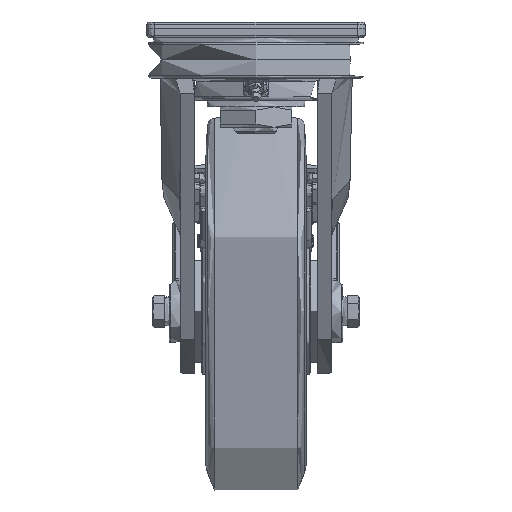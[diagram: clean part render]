
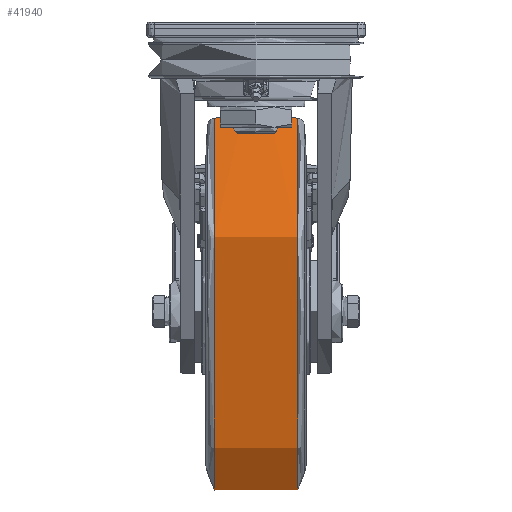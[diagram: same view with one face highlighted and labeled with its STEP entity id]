
A CAD part, left-side view. The second image highlights one B-rep face of the part: STEP entity #41940.
In plain terms, the highlighted free-form (B-spline) face has degree [2, 2] with [3, 9] control points.
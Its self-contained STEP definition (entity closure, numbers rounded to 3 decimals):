
#38=(
BOUNDED_SURFACE()
B_SPLINE_SURFACE(2,2,((#73956,#73957,#73958,#73959,#73960,#73961,#73962,
#73963,#73964),(#73965,#73966,#73967,#73968,#73969,#73970,#73971,#73972,
#73973),(#73974,#73975,#73976,#73977,#73978,#73979,#73980,#73981,#73982)),
 .UNSPECIFIED.,.F.,.T.,.F.)
B_SPLINE_SURFACE_WITH_KNOTS((3,3),(3,2,2,2,3),(-0.107,0.107),
(-3.142,-1.571,0.,1.571,3.142),
 .UNSPECIFIED.)
GEOMETRIC_REPRESENTATION_ITEM()
RATIONAL_B_SPLINE_SURFACE(((1.,0.707,1.,0.707,1.,
0.707,1.,0.707,1.),(0.994,0.703,
0.994,0.703,0.994,0.703,
0.994,0.703,0.994),(1.,0.707,
1.,0.707,1.,0.707,1.,0.707,1.)))
REPRESENTATION_ITEM('')
SURFACE()
);
#10740=FACE_OUTER_BOUND('',#13351,.T.);
#13351=EDGE_LOOP('',(#34842,#34843,#34844,#34845,#34846,#34847));
#15238=CIRCLE('',#44945,123.579);
#15239=CIRCLE('',#44946,123.579);
#15241=CIRCLE('',#44948,123.579);
#15242=CIRCLE('',#44949,123.579);
#15243=CIRCLE('',#44950,250.);
#18869=VERTEX_POINT('',#73951);
#18870=VERTEX_POINT('',#73952);
#18871=VERTEX_POINT('',#73983);
#18872=VERTEX_POINT('',#73984);
#24344=EDGE_CURVE('',#18869,#18870,#15238,.T.);
#24345=EDGE_CURVE('',#18870,#18869,#15239,.T.);
#24347=EDGE_CURVE('',#18871,#18872,#15241,.T.);
#24348=EDGE_CURVE('',#18872,#18871,#15242,.T.);
#24349=EDGE_CURVE('',#18872,#18870,#15243,.T.);
#34842=ORIENTED_EDGE('',*,*,#24347,.F.);
#34843=ORIENTED_EDGE('',*,*,#24348,.F.);
#34844=ORIENTED_EDGE('',*,*,#24349,.T.);
#34845=ORIENTED_EDGE('',*,*,#24345,.T.);
#34846=ORIENTED_EDGE('',*,*,#24344,.T.);
#34847=ORIENTED_EDGE('',*,*,#24349,.F.);
#41940=ADVANCED_FACE('',(#10740),#38,.F.);
#44945=AXIS2_PLACEMENT_3D('',#73953,#52804,#52805);
#44946=AXIS2_PLACEMENT_3D('',#73954,#52806,#52807);
#44948=AXIS2_PLACEMENT_3D('',#73985,#52810,#52811);
#44949=AXIS2_PLACEMENT_3D('',#73986,#52812,#52813);
#44950=AXIS2_PLACEMENT_3D('',#73987,#52814,#52815);
#52804=DIRECTION('center_axis',(0.,1.,0.));
#52805=DIRECTION('ref_axis',(-1.,0.,0.));
#52806=DIRECTION('center_axis',(0.,1.,0.));
#52807=DIRECTION('ref_axis',(-1.,0.,0.));
#52810=DIRECTION('center_axis',(0.,1.,0.));
#52811=DIRECTION('ref_axis',(-1.,0.,0.));
#52812=DIRECTION('center_axis',(0.,1.,0.));
#52813=DIRECTION('ref_axis',(-1.,0.,0.));
#52814=DIRECTION('center_axis',(1.,0.,0.));
#52815=DIRECTION('ref_axis',(0.,0.,1.));
#73951=CARTESIAN_POINT('',(198.579,-26.62,-181.));
#73952=CARTESIAN_POINT('',(75.,-26.62,-57.421));
#73953=CARTESIAN_POINT('Origin',(75.,-26.62,-181.));
#73954=CARTESIAN_POINT('Origin',(75.,-26.62,-181.));
#73956=CARTESIAN_POINT('Ctrl Pts',(75.,-26.62,-57.421));
#73957=CARTESIAN_POINT('Ctrl Pts',(198.579,-26.62,-57.421));
#73958=CARTESIAN_POINT('Ctrl Pts',(198.579,-26.62,-181.));
#73959=CARTESIAN_POINT('Ctrl Pts',(198.579,-26.62,-304.579));
#73960=CARTESIAN_POINT('Ctrl Pts',(75.,-26.62,-304.579));
#73961=CARTESIAN_POINT('Ctrl Pts',(-48.579,-26.62,-304.579));
#73962=CARTESIAN_POINT('Ctrl Pts',(-48.579,-26.62,-181.));
#73963=CARTESIAN_POINT('Ctrl Pts',(-48.579,-26.62,-57.421));
#73964=CARTESIAN_POINT('Ctrl Pts',(75.,-26.62,-57.421));
#73965=CARTESIAN_POINT('Ctrl Pts',(75.,0.,
-54.571));
#73966=CARTESIAN_POINT('Ctrl Pts',(201.429,0.,
-54.571));
#73967=CARTESIAN_POINT('Ctrl Pts',(201.429,0.,
-181.));
#73968=CARTESIAN_POINT('Ctrl Pts',(201.429,0.,
-307.429));
#73969=CARTESIAN_POINT('Ctrl Pts',(75.,0.,
-307.429));
#73970=CARTESIAN_POINT('Ctrl Pts',(-51.429,0.,
-307.429));
#73971=CARTESIAN_POINT('Ctrl Pts',(-51.429,0.,
-181.));
#73972=CARTESIAN_POINT('Ctrl Pts',(-51.429,0.,
-54.571));
#73973=CARTESIAN_POINT('Ctrl Pts',(75.,0.,
-54.571));
#73974=CARTESIAN_POINT('Ctrl Pts',(75.,26.62,-57.421));
#73975=CARTESIAN_POINT('Ctrl Pts',(198.579,26.62,-57.421));
#73976=CARTESIAN_POINT('Ctrl Pts',(198.579,26.62,-181.));
#73977=CARTESIAN_POINT('Ctrl Pts',(198.579,26.62,-304.579));
#73978=CARTESIAN_POINT('Ctrl Pts',(75.,26.62,-304.579));
#73979=CARTESIAN_POINT('Ctrl Pts',(-48.579,26.62,-304.579));
#73980=CARTESIAN_POINT('Ctrl Pts',(-48.579,26.62,-181.));
#73981=CARTESIAN_POINT('Ctrl Pts',(-48.579,26.62,-57.421));
#73982=CARTESIAN_POINT('Ctrl Pts',(75.,26.62,-57.421));
#73983=CARTESIAN_POINT('',(198.579,26.62,-181.));
#73984=CARTESIAN_POINT('',(75.,26.62,-57.421));
#73985=CARTESIAN_POINT('Origin',(75.,26.62,-181.));
#73986=CARTESIAN_POINT('Origin',(75.,26.62,-181.));
#73987=CARTESIAN_POINT('Origin',(75.,0.,-306.));
